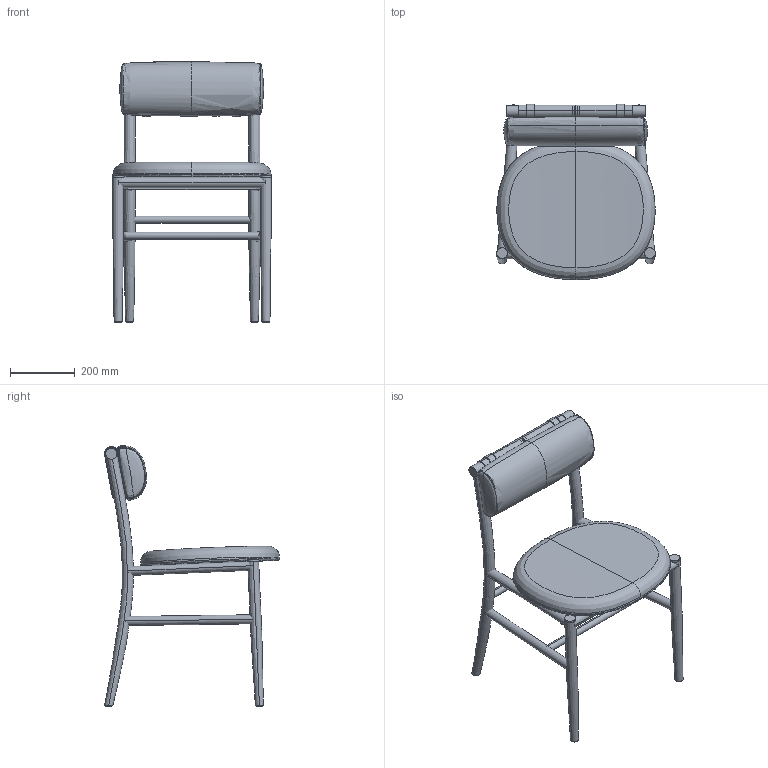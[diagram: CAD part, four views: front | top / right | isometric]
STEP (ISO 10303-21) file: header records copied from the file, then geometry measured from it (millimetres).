
FILE_DESCRIPTION(/* description */ (''),/* implementation_level */ '2;1');
FILE_NAME(/* name */ 'Nama Dining Chair',/* time_stamp */ '2025-08-27T09:55:44+02:00',/* author */ (''),/* organization */ (''),/* preprocessor_version */ 'ST-DEVELOPER v16.5',/* originating_system */ 'Rhino 7.38',/* authorisation */ '');
FILE_SCHEMA (('CONFIG_CONTROL_DESIGN'));
Length unit declared in the file: millimetre
Products named in the file (1): Document
Bounding box: 490.64 x 541.53 x 805.68 mm (x, y, z)
Volume: 14751858.6 mm3; surface area: 1644587.7 mm2
Topology: 23 solids, 41 shells, 483 faces, 1013 edges, 584 vertices
Faces by surface type: bspline 483
Entity records: 42605 total; most frequent: CARTESIAN_POINT 30084, B_SPLINE_CURVE_WITH_KNOTS 2305, ORIENTED_EDGE 1940, PCURVE 1940, DEFINITIONAL_REPRESENTATION 1940, SURFACE_CURVE 1009, EDGE_CURVE 1009, VERTEX_POINT 584
